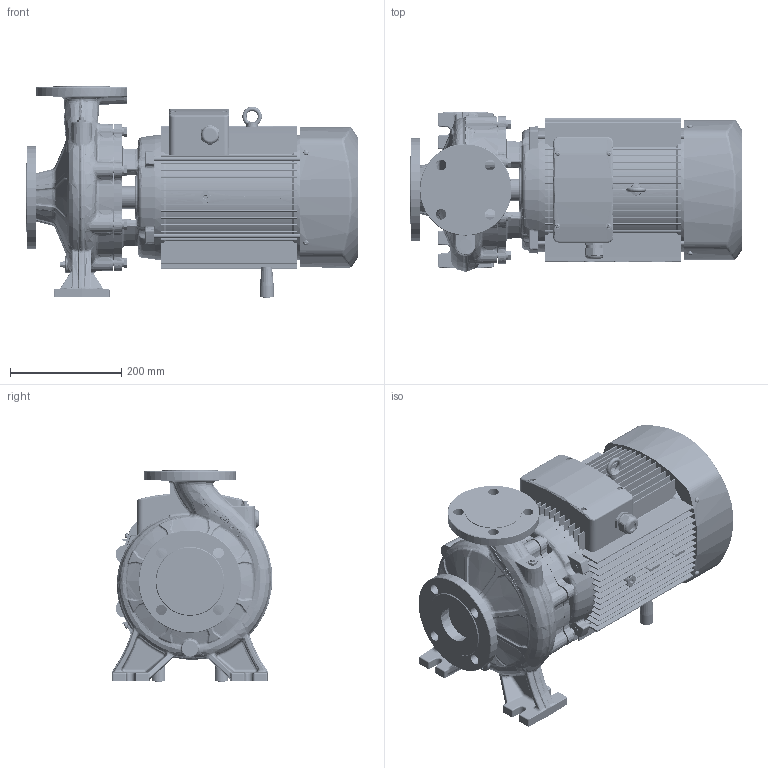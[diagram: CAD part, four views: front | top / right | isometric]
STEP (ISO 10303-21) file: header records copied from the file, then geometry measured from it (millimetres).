
FILE_DESCRIPTION (( 'STEP AP203' ), '1' );
FILE_NAME ('TST50-200-9.2 安装尺寸图.STEP', '2026-04-28T09:06:45', ( '微软用户' ), ( '微软中国' ), 'SwSTEP 2.0', 'SolidWorks 2020', '' );
FILE_SCHEMA (( 'CONFIG_CONTROL_DESIGN' ));
Products named in the file (1): TST50-200-9.2 假蚾喜渡芞
Bounding box: 596.98 x 289.05 x 380.58 mm (x, y, z)
Volume: 25745784.2 mm3; surface area: 1542851.1 mm2
Topology: 1 solids, 9 shells, 4659 faces, 11320 edges, 7023 vertices
Faces by surface type: cylinder 1399, plane 1386, bspline 1163, cone 368, torus 255, sphere 88
Entity records: 178716 total; most frequent: CARTESIAN_POINT 76543, ORIENTED_EDGE 22580, DIRECTION 19881, EDGE_CURVE 11290, AXIS2_PLACEMENT_3D 8191, VERTEX_POINT 7019, EDGE_LOOP 5131, CIRCLE 4694
